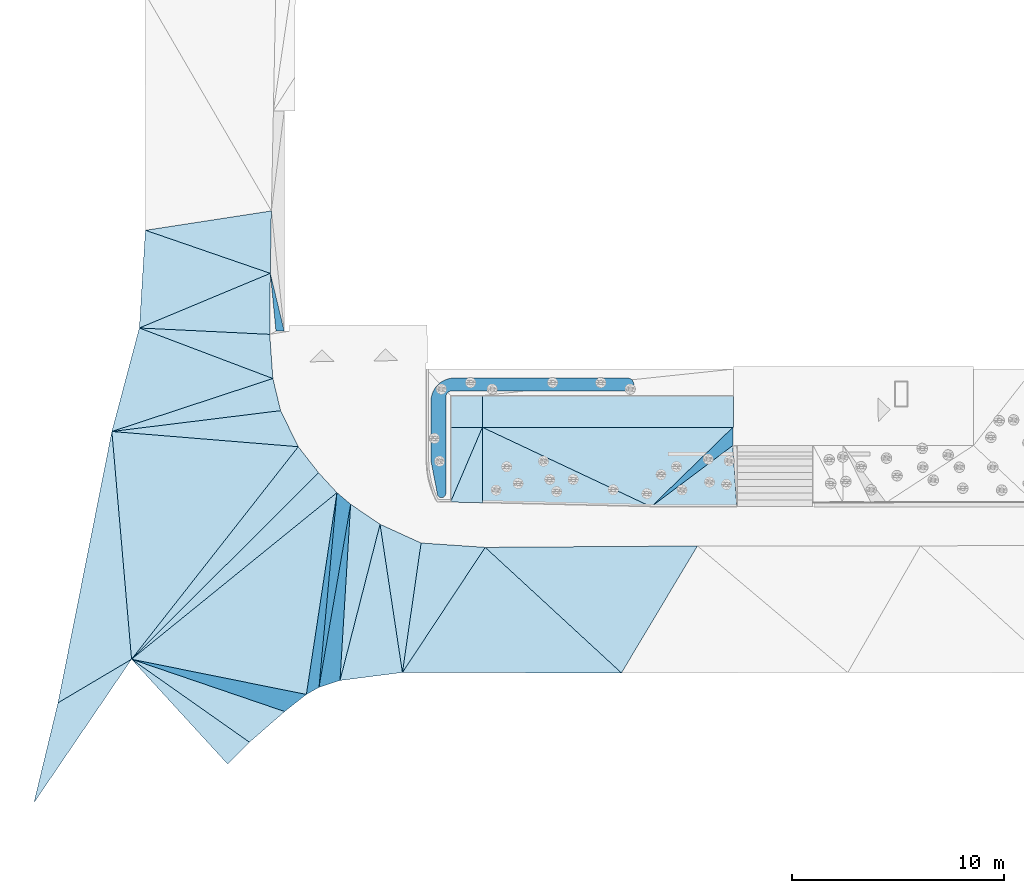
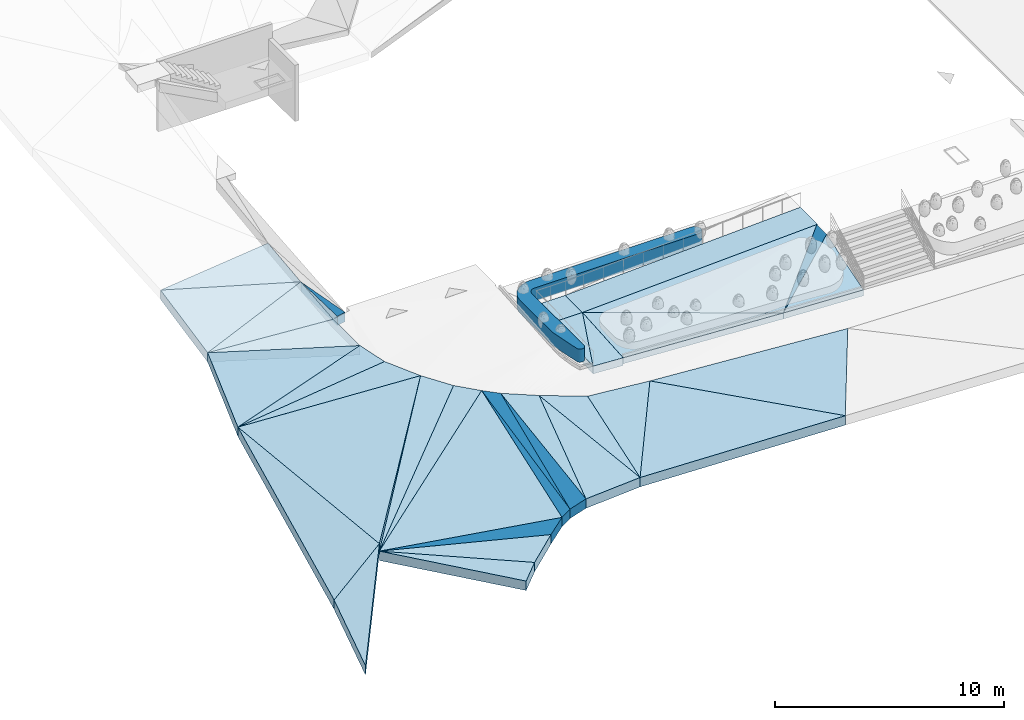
# One storey, part 1 of 23: 35 slabs, 6 elements without a shape of their own.
"""IFC2X3 building model written with IfcOpenShell, lengths in metres."""

from ifc_helpers import new_model, entity, si_unit, converted_unit, direction, frame, frame_2d, origin, origin_2d_with_axis, place, context, subcontext, project, spatial, polyline, circle_curve, parameter, trimmed, segment, composite_curve, rectangle, outline, extrude, material, layer, layer_set, type_object, element, aggregate, save


model = new_model("IFC2X3")

# Units and contexts
model_context = context("Model", 3, precision=1e-05, world=origin(), true_north=direction((0.7716245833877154, 0.6360782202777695)))
body_context = subcontext(model_context, "Body", "Model", "MODEL_VIEW")
ifc_project = project(units=[si_unit("LENGTHUNIT", "METRE"), converted_unit("PLANEANGLEUNIT", "DEGREE", entity("IfcPlaneAngleMeasure", 0.017453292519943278), si_unit("PLANEANGLEUNIT", "RADIAN"), dimensions=[0, 0, 0, 0, 0, 0, 0]), si_unit("AREAUNIT", "SQUARE_METRE")], contexts=[model_context])

# Site, building, storey
site_placement = place(None, origin())
site = spatial("IfcSite", under=ifc_project, at=site_placement, Name="Default", CompositionType="ELEMENT")
building_placement = place(site_placement, origin())
building = spatial("IfcBuilding", under=site, at=building_placement, Name="<Building Name>", CompositionType="ELEMENT")
storey_placement = place(building_placement, origin())
storey = spatial("IfcBuildingStorey", under=building, at=storey_placement, Name="00 - HAV", CompositionType="ELEMENT", Elevation=0.0)

# Slabs
slab_1_placement = place(storey_placement, frame((215.88810139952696, 30.595880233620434, 28.880000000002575)))
slab_1 = element("IfcSlab", 1, at=slab_1_placement, inside=storey, Name="Floor:761 Asfalt - Kjørearealer", ObjectType="Floor:761 Asfalt - Kjørearealer", PredefinedType="NOTDEFINED")
ifc_material_1 = material(Name="Site - Asphalt - Asfaltbetong")
ifc_layer_1 = layer(ifc_material_1, 0.03)
ifc_material_2 = material(Name="A_Default_Building_Part")
ifc_layer_2 = layer(ifc_material_2, 0.07)
ifc_material_3 = material(Name="Site - Gravel - Stabilitet grus")
ifc_layer_3 = layer(ifc_material_3, 0.2)
ifc_material_4 = material(Name="Site - Gravel - Bunnsikringsgrus")
ifc_layer_4 = layer(ifc_material_4, 0.2)
ifc_layer_set_1 = layer_set([ifc_layer_1, ifc_layer_2, ifc_layer_3, ifc_layer_4], Name="Floor:761 Asfalt - Kjørearealer")
slab_type_1 = type_object("IfcSlabType", Name="Floor:761 Asfalt - Kjørearealer", PredefinedType="NOTDEFINED")
slab_2_placement = place(slab_1_placement, origin())
slab_2 = element("IfcSlab", 2, at=slab_2_placement, type_object=slab_type_1, material=ifc_layer_set_1, Name="Floor:761 Asfalt - Kjørearealer", ObjectType="Floor:761 Asfalt - Kjørearealer", PredefinedType="NOTDEFINED", context=body_context, shape_type="SweptSolid", body=[
    extrude(outline(polyline([(4.9959367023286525, 3.011946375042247), (-5.033628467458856, 2.948523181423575), (1.4047229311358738, -2.9714710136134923), (4.9959367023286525, 3.011946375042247)])), frame((21.681148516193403, 11.24581542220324, 3.019317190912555), z_axis=(0.0748100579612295, -0.004775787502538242, 0.9971863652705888), x_axis=(0.9971978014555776, 0.0003582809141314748, -0.07480920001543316)), (0.07480920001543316, -0.0047892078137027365, -0.9971863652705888), 0.49999999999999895),
])
slab_3_placement = place(slab_1_placement, origin())
slab_3 = element("IfcSlab", 3, at=slab_3_placement, type_object=slab_type_1, material=ifc_layer_set_1, Name="Floor:761 Asfalt - Kjørearealer", ObjectType="Floor:761 Asfalt - Kjørearealer", PredefinedType="NOTDEFINED", context=body_context, shape_type="SweptSolid", body=[
    extrude(outline(polyline([(1.9509955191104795, 2.949447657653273), (-1.071550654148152, 3.1616141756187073), (-1.9509955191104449, -2.9494476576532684), (1.9509955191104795, 2.949447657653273)])), frame((14.711875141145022, 11.243925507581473, 3.309999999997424), z_axis=(0.035724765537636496, -0.05746001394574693, 0.9977084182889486), x_axis=(0.9993616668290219, 0.0020540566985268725, -0.03566566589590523)), (0.03566566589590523, -0.05749671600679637, -0.9977084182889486), 0.49999999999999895),
])
slab_4_placement = place(slab_1_placement, origin())
slab_4 = element("IfcSlab", 4, at=slab_4_placement, type_object=slab_type_1, material=ifc_layer_set_1, Name="Floor:761 Asfalt - Kjørearealer", ObjectType="Floor:761 Asfalt - Kjørearealer", PredefinedType="NOTDEFINED", context=body_context, shape_type="SweptSolid", body=[
    extrude(outline(polyline([(-1.6494774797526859, 5.330424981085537), (-5.550719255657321, -0.5689658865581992), (4.773699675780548, -0.6060297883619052), (-1.6494774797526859, 5.330424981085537)])), frame((18.31036643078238, 8.872390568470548, 3.074917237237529), z_axis=(0.029876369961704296, -0.053606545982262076, 0.9981150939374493), x_axis=(0.9995536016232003, 0.001602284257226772, -0.02983337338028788)), (0.02983337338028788, -0.05363048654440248, -0.9981150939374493), 0.49999999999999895),
])
slab_5_placement = place(slab_1_placement, origin())
slab_5 = element("IfcSlab", 5, at=slab_5_placement, type_object=slab_type_1, material=ifc_layer_set_1, Name="Floor:761 Asfalt - Kjørearealer", ObjectType="Floor:761 Asfalt - Kjørearealer", PredefinedType="NOTDEFINED", context=body_context, shape_type="SweptSolid", body=[
    extrude(outline(polyline([(1.408651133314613, 2.6096028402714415), (-0.5279236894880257, 3.50127427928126), (0.5279236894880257, -3.5012742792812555), (1.408651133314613, 2.6096028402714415)])), frame((12.235306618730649, 11.787854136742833, 3.4599999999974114), z_axis=(0.0646758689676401, -0.06154016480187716, 0.9960069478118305), x_axis=(0.9979063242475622, 0.003988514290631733, -0.06455276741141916)), (0.06455276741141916, -0.061669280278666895, -0.9960069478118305), 0.49999999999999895),
])
slab_6_placement = place(slab_1_placement, origin())
slab_6 = element("IfcSlab", 6, at=slab_6_placement, type_object=slab_type_1, material=ifc_layer_set_1, Name="Floor:761 Asfalt - Kjørearealer", ObjectType="Floor:761 Asfalt - Kjørearealer", PredefinedType="NOTDEFINED", context=body_context, shape_type="SweptSolid", body=[
    extrude(outline(polyline([(1.6375545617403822, 3.2142324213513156), (0.2507139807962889, 4.157934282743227), (-0.2507139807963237, -4.157934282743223), (1.6375545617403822, 3.2142324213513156)])), frame((10.071041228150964, 12.07083879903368, 3.5349999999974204), z_axis=(-0.011461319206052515, -0.04860986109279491, 0.9987520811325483), x_axis=(0.9999343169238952, -0.0005571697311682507, 0.011447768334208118)), (-0.011447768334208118, -0.04861305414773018, -0.9987520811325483), 0.49999999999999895),
])
slab_7_placement = place(slab_1_placement, origin())
slab_7 = element("IfcSlab", 7, at=slab_7_placement, type_object=slab_type_1, material=ifc_layer_set_1, Name="Floor:761 Asfalt - Kjørearealer", ObjectType="Floor:761 Asfalt - Kjørearealer", PredefinedType="NOTDEFINED", context=body_context, shape_type="SweptSolid", body=[
    extrude(outline(polyline([(-0.3921926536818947, 4.02877569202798), (-2.2825956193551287, -3.3428439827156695), (0.6627044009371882, -2.9739160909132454), (-0.3921926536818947, 4.02877569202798)])), frame((12.10021233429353, 11.26108410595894, 3.4328114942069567), z_axis=(0.04886673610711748, -0.06397834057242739, 0.9967541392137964), x_axis=(0.9988053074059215, 0.003130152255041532, -0.04876638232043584)), (0.04876638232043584, -0.0640548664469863, -0.9967541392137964), 0.49999999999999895),
])
slab_8_placement = place(slab_1_placement, origin())
slab_8 = element("IfcSlab", 8, at=slab_8_placement, type_object=slab_type_1, material=ifc_layer_set_1, Name="Floor:761 Asfalt - Kjørearealer", ObjectType="Floor:761 Asfalt - Kjørearealer", PredefinedType="NOTDEFINED", context=body_context, shape_type="SweptSolid", body=[
    extrude(outline(polyline([(1.0678291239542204, 4.046429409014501), (0.42402323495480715, 4.5927937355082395), (-0.42402323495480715, -4.5927937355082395), (1.0678291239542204, 4.046429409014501)])), frame((9.254104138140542, 12.181467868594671, 3.554999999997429), z_axis=(0.019086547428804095, -0.050740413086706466, 0.998529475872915), x_axis=(0.999817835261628, 0.000968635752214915, -0.019061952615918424)), (0.019061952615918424, -0.05074965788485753, -0.998529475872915), 0.49999999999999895),
])
slab_9_placement = place(slab_1_placement, origin())
slab_9 = element("IfcSlab", 9, at=slab_9_placement, type_object=slab_type_1, material=ifc_layer_set_1, Name="Floor:761 Asfalt - Kjørearealer", ObjectType="Floor:761 Asfalt - Kjørearealer", PredefinedType="NOTDEFINED", context=body_context, shape_type="SweptSolid", body=[
    extrude(outline(polyline([(0.2921785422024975, 4.397962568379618), (-1.1996037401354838, -4.241272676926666), (-0.2092842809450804, -3.9179038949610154), (0.2921785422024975, 4.397962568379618)])), frame((10.029599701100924, 11.831078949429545, 3.5236087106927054), z_axis=(0.016443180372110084, -0.05028684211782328, 0.9985994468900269), x_axis=(0.9998648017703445, 0.0008269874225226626, -0.016422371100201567)), (0.016422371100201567, -0.050293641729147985, -0.9985994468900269), 0.49999999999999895),
])
slab_10_placement = place(slab_1_placement, origin())
slab_10 = element("IfcSlab", 10, at=slab_10_placement, type_object=slab_type_1, material=ifc_layer_set_1, Name="Floor:761 Asfalt - Kjørearealer", ObjectType="Floor:761 Asfalt - Kjørearealer", PredefinedType="NOTDEFINED", context=body_context, shape_type="SweptSolid", body=[
    extrude(outline(polyline([(5.010309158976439, 3.743104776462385), (4.141872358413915, 4.686035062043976), (-4.67044930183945, -4.112117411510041), (5.010309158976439, 3.743104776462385)])), frame((4.669142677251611, 13.029118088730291, 3.5799999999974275), z_axis=(-0.023652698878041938, -0.021772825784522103, 0.9994831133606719), x_axis=(0.999720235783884, -0.0005151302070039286, 0.02364708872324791)), (-0.02364708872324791, -0.021778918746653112, -0.9994831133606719), 0.49999999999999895),
])
slab_11_placement = place(slab_1_placement, origin())
slab_11 = element("IfcSlab", 11, at=slab_11_placement, type_object=slab_type_1, material=ifc_layer_set_1, Name="Floor:761 Asfalt - Kjørearealer", ObjectType="Floor:761 Asfalt - Kjørearealer", PredefinedType="NOTDEFINED", context=body_context, shape_type="SweptSolid", body=[
    extrude(outline(polyline([(2.795990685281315, 6.445337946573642), (-6.88206040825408, -1.4132196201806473), (1.3547806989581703, -3.07492012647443), (2.795990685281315, 6.445337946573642)])), frame((6.882059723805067, 10.331654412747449, 3.4542229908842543), z_axis=(-0.000445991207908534, -0.050351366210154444, 0.998731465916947), x_axis=(0.9999999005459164, -2.2456268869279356e-05, 0.0004454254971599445)), (-0.0004454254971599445, -0.05035137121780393, -0.998731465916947), 0.49999999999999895),
])
slab_12_placement = place(slab_1_placement, origin())
slab_12 = element("IfcSlab", 12, at=slab_12_placement, type_object=slab_type_1, material=ifc_layer_set_1, Name="Floor:761 Asfalt - Kjørearealer", ObjectType="Floor:761 Asfalt - Kjørearealer", PredefinedType="NOTDEFINED", context=body_context, shape_type="SweptSolid", body=[
    extrude(outline(polyline([(0.45548966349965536, 4.80027516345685), (-0.9861428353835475, -4.719918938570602), (-0.39265097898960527, -4.385303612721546), (0.45548966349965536, 4.80027516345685)])), frame((9.222694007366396, 11.974244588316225, 3.5445387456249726), z_axis=(-0.02421304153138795, -0.046742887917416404, 0.9986134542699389), x_axis=(0.9997068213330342, -0.001132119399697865, 0.02418656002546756)), (-0.02418656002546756, -0.04675659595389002, -0.9986134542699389), 0.49999999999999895),
])
slab_13_placement = place(slab_1_placement, origin())
slab_13 = element("IfcSlab", 13, at=slab_13_placement, type_object=slab_type_1, material=ifc_layer_set_1, Name="Floor:761 Asfalt - Kjørearealer", ObjectType="Floor:761 Asfalt - Kjørearealer", PredefinedType="NOTDEFINED", context=body_context, shape_type="SweptSolid", body=[
    extrude(outline(polyline([(4.884577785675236, 3.7848843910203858), (3.9291065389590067, 5.01190301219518), (-3.9291065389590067, -5.011903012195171), (4.884577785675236, 3.7848843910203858)])), frame((3.927400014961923, 13.92687561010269, 3.639999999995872), z_axis=(0.029469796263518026, -0.0748820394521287, 0.9967568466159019), x_axis=(0.9995656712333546, 0.0022077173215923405, -0.029386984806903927)), (0.029386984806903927, -0.07491457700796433, -0.9967568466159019), 0.49999999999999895),
])
slab_14_placement = place(slab_1_placement, origin())
slab_14 = element("IfcSlab", 14, at=slab_14_placement, type_object=slab_type_1, material=ifc_layer_set_1, Name="Floor:761 Asfalt - Kjørearealer", ObjectType="Floor:761 Asfalt - Kjørearealer", PredefinedType="NOTDEFINED", context=body_context, shape_type="SweptSolid", body=[
    extrude(outline(polyline([(-2.8030737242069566, 1.9834012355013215), (1.729339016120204, -2.966561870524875), (2.75292296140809, -1.92863031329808), (-2.8030737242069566, 1.9834012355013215)])), frame((2.8026902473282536, 6.938411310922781, 3.29155415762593), z_axis=(0.016540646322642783, -0.02121904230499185, 0.9996380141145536), x_axis=(0.9998631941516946, 0.0003510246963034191, -0.016536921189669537)), (0.016536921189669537, -0.021221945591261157, -0.9996380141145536), 0.49999999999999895),
])
slab_15_placement = place(slab_1_placement, origin())
slab_15 = element("IfcSlab", 15, at=slab_15_placement, type_object=slab_type_1, material=ifc_layer_set_1, Name="Floor:761 Asfalt - Kjørearealer", ObjectType="Floor:761 Asfalt - Kjørearealer", PredefinedType="NOTDEFINED", context=body_context, shape_type="SweptSolid", body=[
    extrude(outline(polyline([(-3.607529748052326, 1.2334419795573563), (1.9480252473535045, -2.679216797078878), (3.6075297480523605, -1.2334419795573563), (-3.607529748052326, 1.2334419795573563)])), frame((3.6073229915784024, 7.688616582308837, 3.3049999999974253), z_axis=(0.010706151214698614, -0.029504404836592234, 0.9995073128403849), x_axis=(0.9999426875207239, 0.00031589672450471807, -0.010701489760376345)), (0.010701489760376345, -0.029506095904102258, -0.9995073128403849), 0.49999999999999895),
])
slab_16_placement = place(slab_1_placement, origin())
slab_16 = element("IfcSlab", 16, at=slab_16_placement, type_object=slab_type_1, material=ifc_layer_set_1, Name="Floor:761 Asfalt - Kjørearealer", ObjectType="Floor:761 Asfalt - Kjørearealer", PredefinedType="NOTDEFINED", context=body_context, shape_type="SweptSolid", body=[
    extrude(outline(polyline([(-4.118499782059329, 0.8304574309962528), (3.096285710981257, -1.6372277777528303), (4.118499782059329, -0.8304574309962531), (-4.118499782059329, 0.8304574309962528)])), frame((4.118420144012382, 8.090493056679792, 3.3399999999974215), z_axis=(-0.006218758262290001, -0.0789093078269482, 0.9968624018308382), x_axis=(0.9999806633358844, -0.0004907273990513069, 0.006199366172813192)), (-0.006199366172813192, -0.07891083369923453, -0.9968624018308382), 0.49999999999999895),
])
aggregate(slab_1, [slab_2, slab_3, slab_4, slab_5, slab_6, slab_7, slab_8, slab_9, slab_10, slab_11, slab_12, slab_13, slab_14, slab_15, slab_16])

slab_17_placement = place(storey_placement, frame((210.63176110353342, 32.75602782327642, 31.369999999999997)))
slab_17 = element("IfcSlab", 17, at=slab_17_placement, inside=storey, Name="Floor:761 Asfalt - Kjørearealer", ObjectType="Floor:761 Asfalt - Kjørearealer", PredefinedType="NOTDEFINED")
slab_18_placement = place(slab_17_placement, origin())
slab_18 = element("IfcSlab", 18, at=slab_18_placement, type_object=slab_type_1, material=ifc_layer_set_1, Name="Floor:761 Asfalt - Kjørearealer", ObjectType="Floor:761 Asfalt - Kjørearealer", PredefinedType="NOTDEFINED", context=body_context, shape_type="SweptSolid", body=[
    extrude(outline(polyline([(-2.852985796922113, 2.4985646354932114), (-3.1401706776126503, -2.1264245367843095), (3.0354664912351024, 0.44020858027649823), (-2.852985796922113, 2.4985646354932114)])), frame((8.761062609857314, 24.493739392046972, 1.9652093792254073), z_axis=(0.03242880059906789, -0.09708838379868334, 0.9947473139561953), x_axis=(0.9994740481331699, 0.003150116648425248, -0.03227543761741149)), (0.03227543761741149, -0.09713947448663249, -0.9947473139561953), 0.49999999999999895),
])
slab_19_placement = place(slab_17_placement, origin())
slab_19 = element("IfcSlab", 19, at=slab_19_placement, type_object=slab_type_1, material=ifc_layer_set_1, Name="Floor:761 Asfalt - Kjørearealer", ObjectType="Floor:761 Asfalt - Kjørearealer", PredefinedType="NOTDEFINED", context=body_context, shape_type="SweptSolid", body=[
    extrude(outline(polyline([(-3.4070590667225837, -0.29611435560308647), (2.4819935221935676, -2.352752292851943), (2.531012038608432, 0.6020568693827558), (-3.4070590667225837, -0.29611435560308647)])), frame((9.314497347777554, 27.277143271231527, 2.205992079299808), z_axis=(0.035429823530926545, -0.08852198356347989, 0.9954439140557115), x_axis=(0.9993721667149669, 0.0031382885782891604, -0.03529055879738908)), (0.03529055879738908, -0.08857759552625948, -0.9954439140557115), 0.49999999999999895),
])
slab_20_placement = place(slab_17_placement, origin())
slab_20 = element("IfcSlab", 20, at=slab_20_placement, type_object=slab_type_1, material=ifc_layer_set_1, Name="Floor:761 Asfalt - Kjørearealer", ObjectType="Floor:761 Asfalt - Kjørearealer", PredefinedType="NOTDEFINED", context=body_context, shape_type="SweptSolid", body=[
    extrude(outline(polyline([(-2.5920256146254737, 3.3075747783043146), (-3.8857815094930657, -1.5997967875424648), (3.7007001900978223, 0.8977611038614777), (-2.5920256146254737, 3.3075747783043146)])), frame((8.21423840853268, 19.087147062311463, 1.4343407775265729), z_axis=(0.015973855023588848, -0.11624417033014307, 0.9930922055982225), x_axis=(0.999872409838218, 0.0018571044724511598, -0.015865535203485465)), (0.015865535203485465, -0.11625900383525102, -0.9930922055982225), 0.49999999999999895),
])
slab_21_placement = place(slab_17_placement, origin())
slab_21 = element("IfcSlab", 21, at=slab_21_placement, type_object=slab_type_1, material=ifc_layer_set_1, Name="Floor:761 Asfalt - Kjørearealer", ObjectType="Floor:761 Asfalt - Kjørearealer", PredefinedType="NOTDEFINED", context=body_context, shape_type="SweptSolid", body=[
    extrude(outline(polyline([(-3.4862064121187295, 0.3159338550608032), (2.807916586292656, -2.090228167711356), (2.660197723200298, -0.00016138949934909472), (-3.4862064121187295, 0.3159338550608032)])), frame((9.107531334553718, 22.061007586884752, 1.7400653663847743), z_axis=(0.026438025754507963, -0.08901393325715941, 0.9956794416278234), x_axis=(0.999650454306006, 0.0023541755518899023, -0.02633300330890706)), (0.02633300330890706, -0.08904505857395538, -0.9956794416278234), 0.49999999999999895),
])
slab_22_placement = place(slab_17_placement, origin())
slab_22 = element("IfcSlab", 22, at=slab_22_placement, type_object=slab_type_1, material=ifc_layer_set_1, Name="Floor:761 Asfalt - Kjørearealer", ObjectType="Floor:761 Asfalt - Kjørearealer", PredefinedType="NOTDEFINED", context=body_context, shape_type="SweptSolid", body=[
    extrude(outline(polyline([(-3.1470203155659, -1.2815076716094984), (2.9994307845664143, -1.5966883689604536), (3.0275742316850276, 1.2876326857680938), (-3.1470203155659, -1.2815076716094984)])), frame((8.76843976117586, 23.65153514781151, 1.8831538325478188), z_axis=(0.026725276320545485, -0.08343853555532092, 0.996154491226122), x_axis=(0.9996428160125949, 0.0022307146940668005, -0.02663201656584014)), (0.02663201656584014, -0.08346834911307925, -0.996154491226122), 0.49999999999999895),
])
slab_23_placement = place(slab_17_placement, origin())
slab_23 = element("IfcSlab", 23, at=slab_23_placement, type_object=slab_type_1, material=ifc_layer_set_1, Name="Floor:761 Asfalt - Kjørearealer", ObjectType="Floor:761 Asfalt - Kjørearealer", PredefinedType="NOTDEFINED", context=body_context, shape_type="SweptSolid", body=[
    extrude(outline(polyline([(-0.20226855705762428, 6.69315464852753), (-2.767262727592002, -6.0976625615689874), (0.7349654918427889, -4.036762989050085), (-0.20226855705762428, 6.69315464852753)])), frame((4.529096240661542, 10.798127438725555, 1.2402289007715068), z_axis=(-0.14457290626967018, -0.014637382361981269, 0.989385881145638), x_axis=(0.989494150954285, -0.0021386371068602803, 0.1445570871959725)), (-0.1445570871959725, -0.014792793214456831, -0.989385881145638), 0.49999999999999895),
])
slab_24_placement = place(slab_17_placement, origin())
slab_24 = element("IfcSlab", 24, at=slab_24_placement, type_object=slab_type_1, material=ifc_layer_set_1, Name="Floor:761 Asfalt - Kjørearealer", ObjectType="Floor:761 Asfalt - Kjørearealer", PredefinedType="NOTDEFINED", context=body_context, shape_type="SweptSolid", body=[
    extrude(outline(polyline([(-4.791782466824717, 4.991313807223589), (-3.864331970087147, -5.739453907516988), (3.9910007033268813, 4.273874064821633), (-4.791782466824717, 4.991313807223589)])), frame((9.120410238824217, 12.499516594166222, 1.3499663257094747), z_axis=(-0.011645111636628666, -0.0031721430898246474, 0.9999271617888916), x_axis=(0.9999321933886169, -3.6942465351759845e-05, 0.011645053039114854)), (-0.011645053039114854, -0.0031723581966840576, -0.9999271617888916), 0.49999999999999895),
])
slab_25_placement = place(slab_17_placement, origin())
slab_25 = element("IfcSlab", 25, at=slab_25_placement, type_object=slab_type_1, material=ifc_layer_set_1, Name="Floor:761 Asfalt - Kjørearealer", ObjectType="Floor:761 Asfalt - Kjørearealer", PredefinedType="NOTDEFINED", context=body_context, shape_type="SweptSolid", body=[
    extrude(outline(polyline([(-4.457554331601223, -0.4522836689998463), (4.325304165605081, -1.1688006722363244), (3.494371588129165, 0.530861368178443), (-4.457554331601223, -0.4522836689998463)])), frame((8.786166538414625, 17.9425767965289, 1.3704833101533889), z_axis=(-0.012359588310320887, -0.011924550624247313, 0.9998525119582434), x_axis=(0.9999236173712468, -0.00014739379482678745, 0.01235870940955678)), (-0.01235870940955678, -0.011925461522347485, -0.9998525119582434), 0.49999999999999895),
])
slab_26_placement = place(slab_17_placement, origin())
slab_26 = element("IfcSlab", 26, at=slab_26_placement, type_object=slab_type_1, material=ifc_layer_set_1, Name="Floor:761 Asfalt - Kjørearealer", ObjectType="Floor:761 Asfalt - Kjørearealer", PredefinedType="NOTDEFINED", context=body_context, shape_type="SweptSolid", body=[
    extrude(outline(polyline([(-3.880627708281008, -1.2606899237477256), (4.070989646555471, -0.27505234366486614), (3.7051711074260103, 1.2389413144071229), (-3.880627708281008, -1.2606899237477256)])), frame((8.209434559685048, 18.749170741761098, 1.3962136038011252), z_axis=(-0.008669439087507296, -0.04172164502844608, 0.999091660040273), x_axis=(0.9999624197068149, -0.00036171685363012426, 0.008661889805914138)), (-0.008661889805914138, -0.04172321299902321, -0.999091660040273), 0.49999999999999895),
])
slab_27_placement = place(slab_17_placement, origin())
slab_27 = element("IfcSlab", 27, at=slab_27_placement, type_object=slab_type_1, material=ifc_layer_set_1, Name="Floor:761 Asfalt - Kjørearealer", ObjectType="Floor:761 Asfalt - Kjørearealer", PredefinedType="NOTDEFINED", context=body_context, shape_type="SweptSolid", body=[
    extrude(outline(polyline([(-1.1771308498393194, 1.3240734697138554), (-2.3240353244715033, -3.386776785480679), (2.324035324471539, 3.386776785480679), (-1.1771308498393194, 1.3240734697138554)])), frame((2.956023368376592, 3.3801171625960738, 0.8933791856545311), z_axis=(-0.14250345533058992, -0.018193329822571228, 0.9896270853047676), x_axis=(0.9897943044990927, -0.0026193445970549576, 0.14247938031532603)), (-0.14247938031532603, -0.018380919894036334, -0.9896270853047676), 0.49999999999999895),
])
aggregate(slab_17, [slab_18, slab_19, slab_20, slab_21, slab_22, slab_23, slab_24, slab_25, slab_26, slab_27])

slab_28_placement = place(storey_placement, frame((222.42669369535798, 54.972793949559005, 32.49999999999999)))
slab_28 = element("IfcSlab", 28, at=slab_28_placement, inside=storey, Name="Floor:761 Asfalt - Kjørearealer", ObjectType="Floor:761 Asfalt - Kjørearealer", PredefinedType="NOTDEFINED")
slab_29_placement = place(slab_28_placement, origin())
slab_29 = element("IfcSlab", 29, at=slab_29_placement, type_object=slab_type_1, material=ifc_layer_set_1, Name="Floor:761 Asfalt - Kjørearealer", ObjectType="Floor:761 Asfalt - Kjørearealer", PredefinedType="NOTDEFINED", context=body_context, shape_type="SweptSolid", body=[
    extrude(outline(polyline([(-0.3353900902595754, 1.3641540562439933), (-0.06440302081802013, -1.3742909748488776), (0.3353900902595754, -1.3641540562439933), (-0.3353900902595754, 1.3641540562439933)])), frame((0.3282293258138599, 1.362331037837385, 0.6813974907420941), z_axis=(-0.20553652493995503, -0.1198199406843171, 0.9712867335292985), x_axis=(0.9786494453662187, -0.02516465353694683, 0.2039902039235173)), (-0.2039902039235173, -0.12243397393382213, -0.9712867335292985), 0.49999999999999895),
])
aggregate(slab_28, [slab_29])

slab_30_placement = place(storey_placement, frame((232.41792444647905, 46.699262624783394, 31.5084352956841)))
slab_30 = element("IfcSlab", 30, at=slab_30_placement, inside=storey, Name="Floor:771 Grøntarealer 2", ObjectType="Floor:771 Grøntarealer 2", PredefinedType="NOTDEFINED")
ifc_material_5 = material(Name="815 - Terrain, Grøntareal")
ifc_layer_5 = layer(ifc_material_5, 0.02)
ifc_material_6 = material(Name="Site - Soil - Jordlag")
ifc_layer_6 = layer(ifc_material_6, 0.30000000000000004)
ifc_layer_set_2 = layer_set([ifc_layer_5, ifc_layer_6], Name="Floor:771 Grøntarealer 2")
slab_type_2 = type_object("IfcSlabType", Name="Floor:771 Grøntarealer 2", PredefinedType="NOTDEFINED")
slab_31_placement = place(slab_30_placement, origin())
slab_31 = element("IfcSlab", 31, at=slab_31_placement, type_object=slab_type_2, material=ifc_layer_set_2, Name="Floor:771 Grøntarealer 2", ObjectType="Floor:771 Grøntarealer 2", PredefinedType="NOTDEFINED", context=body_context, shape_type="SweptSolid", body=[
    extrude(outline(polyline([(1.9995298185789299, 1.0154797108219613), (1.9995298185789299, 1.8714797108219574), (-1.9995298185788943, -1.8714797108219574), (1.9995298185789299, 1.0154797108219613)])), frame((9.876177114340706, 1.8714797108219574, 1.046564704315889), z_axis=(-0.2725640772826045, 0.0, 0.9621376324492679), x_axis=(0.9621376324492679, 0.0, 0.2725640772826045)), (-0.2725640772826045, 0.0, -0.9621376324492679), 0.3200000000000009),
])
slab_32_placement = place(slab_30_placement, origin())
slab_32 = element("IfcSlab", 32, at=slab_32_placement, type_object=slab_type_2, material=ifc_layer_set_2, Name="Floor:771 Grøntarealer 2", ObjectType="Floor:771 Grøntarealer 2", PredefinedType="NOTDEFINED", context=body_context, shape_type="SweptSolid", body=[
    extrude(outline(polyline([(1.1203956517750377, 2.5469056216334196), (-2.7305608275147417, -0.5348385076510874), (1.3057829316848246, -0.6053459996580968), (1.1203956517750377, 2.5469056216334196)])), frame((10.680567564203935, 0.535329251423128, 0.612421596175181), z_axis=(0.04145699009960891, -0.40080476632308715, 0.9152250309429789), x_axis=(0.9991402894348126, 0.01663045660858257, -0.03797512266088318)), (0.03797512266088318, -0.4011496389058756, -0.9152250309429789), 0.3200000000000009),
])
slab_33_placement = place(slab_30_placement, origin())
slab_33 = element("IfcSlab", 33, at=slab_33_placement, type_object=slab_type_2, material=ifc_layer_set_2, Name="Floor:771 Grøntarealer 2", ObjectType="Floor:771 Grøntarealer 2", PredefinedType="NOTDEFINED", context=body_context, shape_type="SweptSolid", body=[
    extrude(outline(polyline([(5.8848489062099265, 1.9908518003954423), (-5.927246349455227, 1.8608299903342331), (2.0332592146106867, -1.903693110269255), (5.8848489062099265, 1.9908518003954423)])), frame((5.921177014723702, 1.871479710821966, 0.8622214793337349), z_axis=(-0.04524263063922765, -0.2361612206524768, 0.9706600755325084), x_axis=(0.9989760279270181, -0.01069550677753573, 0.04396022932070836)), (-0.04396022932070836, -0.23640329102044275, -0.9706600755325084), 0.3200000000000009),
])
slab_34_placement = place(slab_30_placement, origin())
slab_34 = element("IfcSlab", 34, at=slab_34_placement, type_object=slab_type_2, material=ifc_layer_set_2, Name="Floor:771 Grøntarealer 2", ObjectType="Floor:771 Grøntarealer 2", PredefinedType="NOTDEFINED", context=body_context, shape_type="SweptSolid", body=[
    extrude(outline(polyline([(-3.978507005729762, 1.8859487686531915), (-3.978507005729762, -1.6790489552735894), (3.9785070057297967, -1.8859487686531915), (-3.978507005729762, 1.8859487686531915)])), frame((3.9761771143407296, 1.8714797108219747, 0.7715647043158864), z_axis=(0.034218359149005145, -0.0711199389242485, 0.9968806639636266), x_axis=(0.99941438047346, 0.002435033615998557, -0.03413160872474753)), (0.03413160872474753, -0.07116161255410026, -0.9968806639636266), 0.3200000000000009),
])
aggregate(slab_30, [slab_31, slab_32, slab_33, slab_34])

slab_35_placement = place(storey_placement, frame((230.91792444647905, 46.88626230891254, 31.882312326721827)))
slab_35 = element("IfcSlab", 35, at=slab_35_placement, inside=storey, Name="Floor:761 Betongbelegg - Gangarealer", ObjectType="Floor:761 Betongbelegg - Gangarealer", PredefinedType="NOTDEFINED")
ifc_material_7 = material(Name="Site - Concrete - Betongbelegg")
ifc_layer_7 = layer(ifc_material_7, 0.08)
ifc_material_8 = material(Name="Site - Sand - Afretningssand")
ifc_layer_8 = layer(ifc_material_8, 0.03)
ifc_layer_9 = layer(ifc_material_3, 0.15000000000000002)
ifc_layer_10 = layer(ifc_material_4, 0.15000000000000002)
ifc_layer_set_3 = layer_set([ifc_layer_7, ifc_layer_8, ifc_layer_9, ifc_layer_10], Name="Floor:761 Betongbelegg - Gangarealer")
slab_type_3 = type_object("IfcSlabType", Name="Floor:761 Betongbelegg - Gangarealer", PredefinedType="NOTDEFINED")
slab_36_placement = place(slab_35_placement, origin())
slab_36 = element("IfcSlab", 36, at=slab_36_placement, type_object=slab_type_3, material=ifc_layer_set_3, Name="Floor:761 Betongbelegg - Gangarealer", ObjectType="Floor:761 Betongbelegg - Gangarealer", PredefinedType="NOTDEFINED", context=body_context, shape_type="SweptSolid", body=[
    extrude(outline(polyline([(0.7505095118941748, -1.7826421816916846), (0.750509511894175, 1.7826421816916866), (-0.7505095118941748, -1.7432697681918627), (0.7505095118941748, -1.7826421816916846)])), frame((0.7500000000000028, 1.7759814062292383, 0.5664216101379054), z_axis=(0.03684175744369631, -0.07222782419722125, 0.9967074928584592), x_axis=(0.9993211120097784, 0.002662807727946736, -0.03674540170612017)), (0.03674540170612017, -0.07227689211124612, -0.9967074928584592), 0.4100000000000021),
])
slab_37_placement = place(slab_35_placement, origin())
slab_37 = element("IfcSlab", 37, at=slab_37_placement, type_object=slab_type_3, material=ifc_layer_set_3, Name="Floor:761 Betongbelegg - Gangarealer", ObjectType="Floor:761 Betongbelegg - Gangarealer", PredefinedType="NOTDEFINED", context=body_context, shape_type="SweptSolid", body=[
    extrude(rectangle(XDim=11.848000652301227, YDim=1.499999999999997, at=origin_2d_with_axis()), frame((7.417613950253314, 4.305959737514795, 0.9426876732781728), z_axis=(-0.046421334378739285, 0.0, 0.9989219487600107), x_axis=(0.9989219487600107, 0.0, 0.046421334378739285)), (-0.046421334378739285, 0.0, -0.9989219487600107), 0.4100000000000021),
])
slab_38_placement = place(slab_35_placement, origin())
slab_38 = element("IfcSlab", 38, at=slab_38_placement, type_object=slab_type_3, material=ifc_layer_set_3, Name="Floor:761 Betongbelegg - Gangarealer", ObjectType="Floor:761 Betongbelegg - Gangarealer", PredefinedType="NOTDEFINED", context=body_context, shape_type="SweptSolid", body=[
    extrude(rectangle(XDim=1.499999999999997, YDim=1.5000000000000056, at=frame_2d((0.0, 0.0), x_axis=(0.0, 1.0))), frame((0.7500000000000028, 4.30595973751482, 0.6676876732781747)), (0.0, 0.0, -1.0), 0.4100000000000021),
])
slab_39_placement = place(slab_35_placement, origin())
slab_39 = element("IfcSlab", 39, at=slab_39_placement, type_object=slab_type_3, material=ifc_layer_set_3, Name="Floor:761 Betongbelegg - Gangarealer", ObjectType="Floor:761 Betongbelegg - Gangarealer", PredefinedType="NOTDEFINED", context=body_context, shape_type="SweptSolid", body=[
    extrude(outline(polyline([(0.7500000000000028, 1.7631727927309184), (-0.7500000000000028, 1.763172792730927), (-0.7500000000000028, -1.7631727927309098), (0.7500000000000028, 1.7631727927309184)])), frame((0.7500000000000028, 1.7956161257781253, 0.567844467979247), z_axis=(0.0, -0.05662701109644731, 0.9983954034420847), x_axis=(1.0, 0.0, 0.0)), (0.0, -0.05662701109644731, -0.9983954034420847), 0.4100000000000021),
])
aggregate(slab_35, [slab_36, slab_37, slab_38, slab_39])

# Roof, slab
ifc_material_9 = material(Name="Planting - Shrubs and hedges - Busker")
ifc_layer_11 = layer(ifc_material_9, 0.7000000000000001)
ifc_layer_set_4 = layer_set([ifc_layer_11], Name="Basic Roof:772 Stauder, Geranium phaeum (Storkenæb Bølgekronede)")
roof_placement = place(storey_placement, frame((229.9925556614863, 47.13014254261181, 32.6)))
roof = element("IfcRoof", 40, at=roof_placement, inside=storey, material=ifc_layer_set_4, Name="Basic Roof:772 Stauder, Geranium phaeum (Storkenæb Bølgekronede)", ObjectType="Basic Roof:772 Stauder, Geranium phaeum (Storkenæb Bølgekronede)", ShapeType="NOTDEFINED")
type_product = type_object("IfcTypeProduct", Name="Basic Roof:772 Stauder, Geranium phaeum (Storkenæb Bølgekronede)")
slab_40_placement = place(roof_placement, origin())
slab_40 = element("IfcSlab", 41, at=slab_40_placement, type_object=type_product, material=ifc_layer_set_4, Name="Basic Roof:772 Stauder, Geranium phaeum (Storkenæb Bølgekronede)", ObjectType="Basic Roof:772 Stauder, Geranium phaeum (Storkenæb Bølgekronede)", PredefinedType="ROOF", context=body_context, shape_type="SweptSolid", body=[
    extrude(outline(composite_curve([segment(trimmed(circle_curve(frame_2d((-4.280522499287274, -2.6168956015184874), x_axis=(1.0, 0.0)), 0.20084915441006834), [parameter(201.9999999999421)], [parameter(0.0)], True, "PARAMETER"), True, "CONTINUOUS"), segment(polyline([(-4.079673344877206, -2.6168956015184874), (-4.079673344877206, 1.9177335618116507)]), True, "CONTINUOUS"), segment(trimmed(circle_curve(frame_2d((-3.779673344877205, 1.9177335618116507), x_axis=(1.0, 0.0)), 0.30000000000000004), [parameter(90.00000000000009)], [parameter(179.99999999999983)], True, "PARAMETER"), False, "CONTINUOUS"), segment(polyline([(-3.779673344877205, 2.2177335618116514), (4.479673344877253, 2.2177335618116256)]), True, "CONTINUOUS"), segment(trimmed(circle_curve(frame_2d((4.479673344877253, 2.517733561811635), x_axis=(1.0, 0.0)), 0.3000000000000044), [parameter(269.9999999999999)], [parameter(90.00000000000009)], True, "PARAMETER"), True, "CONTINUOUS"), segment(polyline([(4.479673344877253, 2.817733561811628), (-3.6796733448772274, 2.8177335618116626)]), True, "CONTINUOUS"), segment(trimmed(circle_curve(frame_2d((-3.6796733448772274, 1.7177335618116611), x_axis=(1.0, 0.0)), 1.1), [parameter(90.00000000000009)], [parameter(179.99999999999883)], True, "PARAMETER"), True, "CONTINUOUS"), segment(polyline([(-4.77967334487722, 1.71773356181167), (-4.77967334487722, -1.0822664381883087)]), True, "CONTINUOUS"), segment(polyline([(-4.77967334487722, -1.0822664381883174), (-4.466746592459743, -2.6921350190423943)]), True, "CONTINUOUS")], self_intersect=False)), frame((4.77967334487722, 2.817298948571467, 0.0)), (0.0, 0.0, 1.0), 0.7000000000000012),
])
aggregate(roof, [slab_40])

save(model, "model.ifc")
